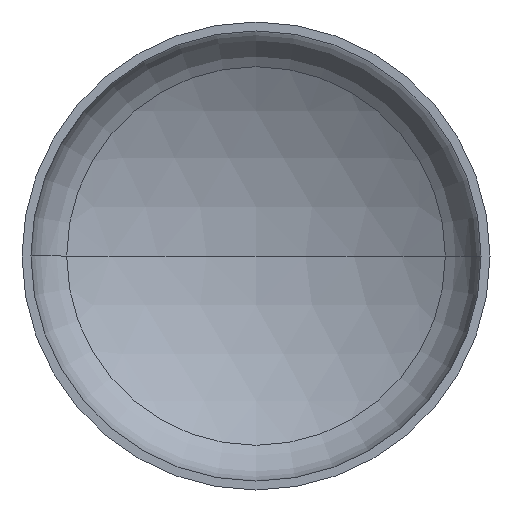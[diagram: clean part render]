
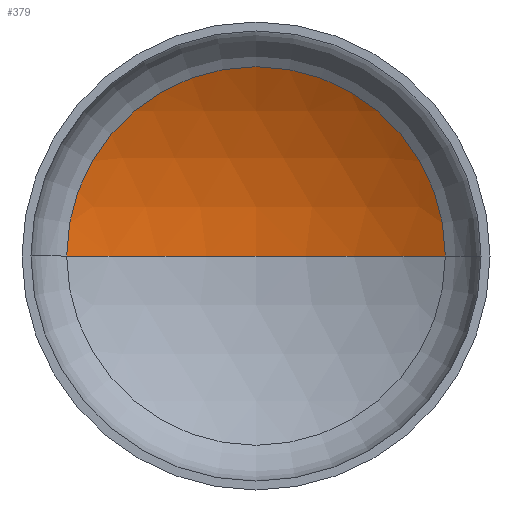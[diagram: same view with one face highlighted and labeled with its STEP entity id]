
A CAD part, front view. The second image highlights one B-rep face of the part: STEP entity #379.
In plain terms, the highlighted spherical face has radius 3600 mm.
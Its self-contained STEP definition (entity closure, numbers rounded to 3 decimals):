
#19 = AXIS2_PLACEMENT_3D ( 'NONE', #30, #25, #22 ) ;
#22 = DIRECTION ( 'NONE',  ( 1., 0., 0. ) ) ;
#25 = DIRECTION ( 'NONE',  ( 0., 0., 1. ) ) ;
#28 = AXIS2_PLACEMENT_3D ( 'NONE', #217, #374, #244 ) ;
#29 = AXIS2_PLACEMENT_3D ( 'NONE', #209, #212, #197 ) ;
#30 = CARTESIAN_POINT ( 'NONE',  ( 0., -2406.205, 0. ) ) ;
#66 = EDGE_CURVE ( 'NONE', #129, #104, #211, .T. ) ;
#67 = EDGE_CURVE ( 'NONE', #105, #129, #103, .T. ) ;
#74 = EDGE_CURVE ( 'NONE', #105, #104, #385, .T. ) ;
#103 = CIRCLE ( 'NONE', #28, 3600. ) ;
#104 = VERTEX_POINT ( 'NONE', #239 ) ;
#105 = VERTEX_POINT ( 'NONE', #228 ) ;
#129 = VERTEX_POINT ( 'NONE', #202 ) ;
#131 = FACE_OUTER_BOUND ( 'NONE', #152, .T. ) ;
#152 = EDGE_LOOP ( 'NONE', ( #154, #173, #184 ) ) ;
#154 = ORIENTED_EDGE ( 'NONE', *, *, #74, .F. ) ;
#173 = ORIENTED_EDGE ( 'NONE', *, *, #67, .T. ) ;
#181 = DIRECTION ( 'NONE',  ( 0., 0., -1. ) ) ;
#184 = ORIENTED_EDGE ( 'NONE', *, *, #66, .T. ) ;
#196 = DIRECTION ( 'NONE',  ( -1., 0., 0. ) ) ;
#197 = DIRECTION ( 'NONE',  ( 1., 0., 0. ) ) ;
#202 = CARTESIAN_POINT ( 'NONE',  ( 1820.448, 699.591, 0. ) ) ;
#209 = CARTESIAN_POINT ( 'NONE',  ( 0., 699.591, 0. ) ) ;
#211 = CIRCLE ( 'NONE', #29, 1820.448 ) ;
#212 = DIRECTION ( 'NONE',  ( 0., -1., 0. ) ) ;
#217 = CARTESIAN_POINT ( 'NONE',  ( 0., -2406.205, 0. ) ) ;
#228 = CARTESIAN_POINT ( 'NONE',  ( 0., 1193.795, 0. ) ) ;
#239 = CARTESIAN_POINT ( 'NONE',  ( -1820.448, 699.591, 0. ) ) ;
#244 = DIRECTION ( 'NONE',  ( -1., 0., 0. ) ) ;
#276 = SPHERICAL_SURFACE ( 'NONE', #391, 3600. ) ;
#322 = CARTESIAN_POINT ( 'NONE',  ( 0., -2406.205, 0. ) ) ;
#374 = DIRECTION ( 'NONE',  ( 0., 0., -1. ) ) ;
#379 = ADVANCED_FACE ( 'NONE', ( #131 ), #276, .F. ) ;
#385 = CIRCLE ( 'NONE', #19, 3600. ) ;
#391 = AXIS2_PLACEMENT_3D ( 'NONE', #322, #181, #196 ) ;
